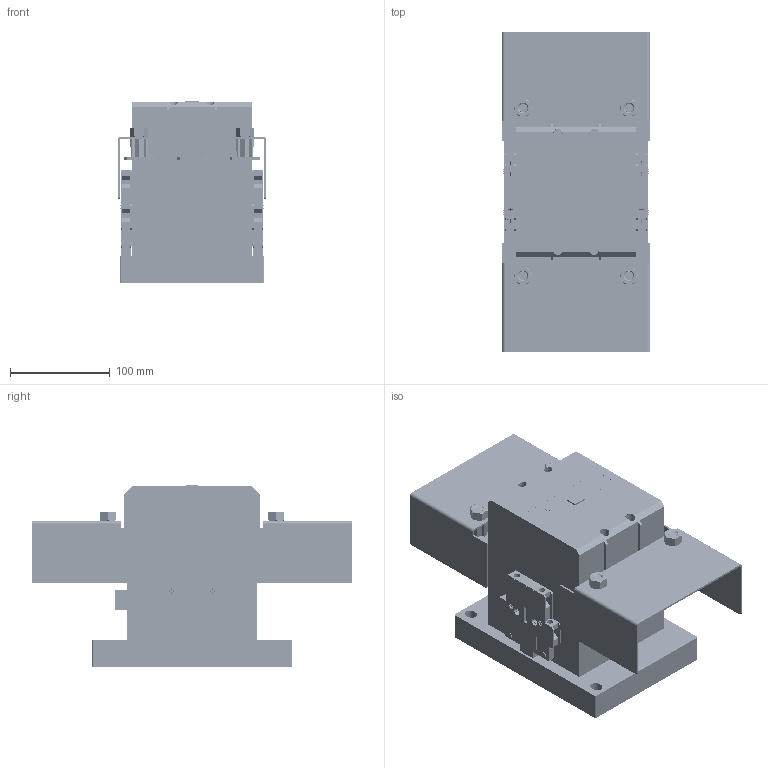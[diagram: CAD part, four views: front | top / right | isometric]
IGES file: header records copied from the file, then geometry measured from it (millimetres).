
Start section: SolidWorks IGES file using analytic representation for surfaces
Global section: file name: Q:\GROUPS\BR_SC_JGS_WA_TECNICO\ENG\Usuarios\Rodrigob\conversão\contatores\Montagem\CWM250+BMP CWM300\CWM250+BMP CWM300.IGS; native system: SolidWorks 2009; preprocessor: SolidWorks 2009; author: rodrigob; date: 111013.133959; units: millimetre
Bounding box: 148.98 x 320.84 x 182.45 mm (x, y, z)
Surface area: 402151.3 mm2 (no closed solid volume)
Topology: 0 solids, 0 shells, 2158 faces, 27608 edges, 27608 vertices
Faces by surface type: bspline 1464, revolution 694
